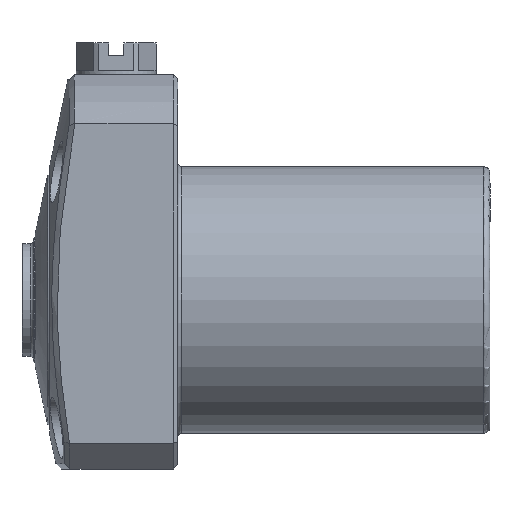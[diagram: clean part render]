
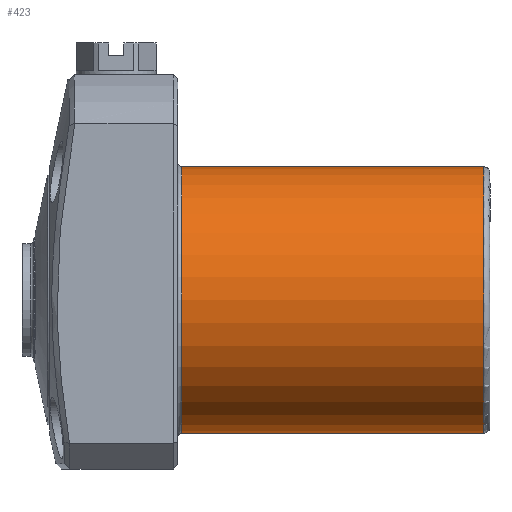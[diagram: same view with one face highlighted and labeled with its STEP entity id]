
A CAD part, left-side view. The second image highlights one B-rep face of the part: STEP entity #423.
In plain terms, the highlighted cylindrical face has radius 13 mm (diameter 26 mm), a partial arc.
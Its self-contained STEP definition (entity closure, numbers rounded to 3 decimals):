
#423=ADVANCED_FACE('',(#631),#524,.T.);
#524=CYLINDRICAL_SURFACE('',#2916,13.);
#631=FACE_OUTER_BOUND('',#798,.T.);
#798=EDGE_LOOP('',(#1623,#1624,#1625,#1626));
#972=LINE('',#4531,#1117);
#973=LINE('',#4533,#1118);
#1117=VECTOR('',#3455,1.);
#1118=VECTOR('',#3458,1.);
#1623=ORIENTED_EDGE('',*,*,#2336,.F.);
#1624=ORIENTED_EDGE('',*,*,#2432,.T.);
#1625=ORIENTED_EDGE('',*,*,#2338,.T.);
#1626=ORIENTED_EDGE('',*,*,#2244,.T.);
#1976=VERTEX_POINT('',#4125);
#1977=VERTEX_POINT('',#4127);
#1981=VERTEX_POINT('',#4154);
#1982=VERTEX_POINT('',#4156);
#2244=EDGE_CURVE('',#1982,#1981,#2557,.T.);
#2336=EDGE_CURVE('',#1976,#1981,#972,.T.);
#2338=EDGE_CURVE('',#1977,#1982,#973,.T.);
#2432=EDGE_CURVE('',#1976,#1977,#2640,.T.);
#2557=CIRCLE('',#2781,13.);
#2640=CIRCLE('',#2915,13.);
#2781=AXIS2_PLACEMENT_3D('',#4155,#3281,#3282);
#2915=AXIS2_PLACEMENT_3D('',#5044,#3631,#3632);
#2916=AXIS2_PLACEMENT_3D('',#5045,#3633,#3634);
#3281=DIRECTION('',(0.,-1.,0.));
#3282=DIRECTION('',(0.,0.,1.));
#3455=DIRECTION('',(0.,1.,0.));
#3458=DIRECTION('',(0.,1.,0.));
#3631=DIRECTION('',(0.,1.,0.));
#3632=DIRECTION('',(0.,0.,1.));
#3633=DIRECTION('',(0.,1.,0.));
#3634=DIRECTION('',(0.,0.,-1.));
#4125=CARTESIAN_POINT('',(0.,0.6,-13.));
#4127=CARTESIAN_POINT('',(0.,0.6,13.));
#4154=CARTESIAN_POINT('',(0.,30.1,-13.));
#4155=CARTESIAN_POINT('',(0.,30.1,0.));
#4156=CARTESIAN_POINT('',(0.,30.1,13.));
#4531=CARTESIAN_POINT('',(0.,45.7,-13.));
#4533=CARTESIAN_POINT('',(0.,45.7,13.));
#5044=CARTESIAN_POINT('',(0.,0.6,0.));
#5045=CARTESIAN_POINT('',(0.,45.7,0.));
